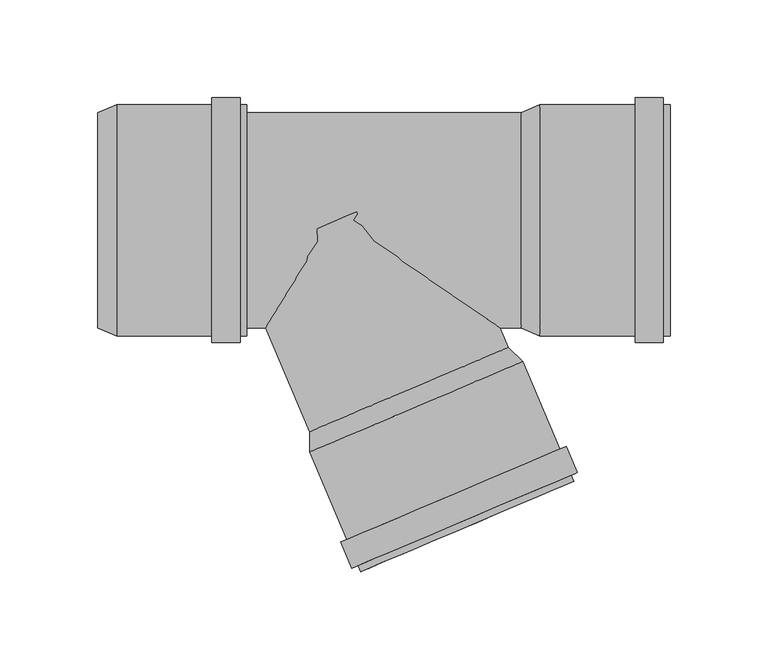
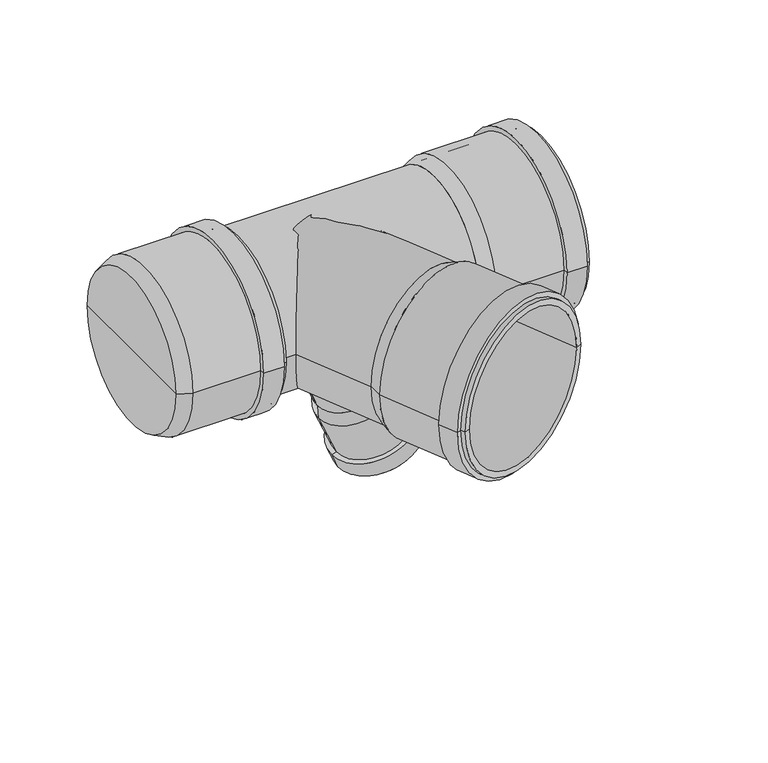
"""IFC4 building model written with IfcOpenShell, lengths in millimetres: pipe fitting geometry, pf_HTEPKp : pf_HTEPKp."""

from ifc_helpers import new_model, si_unit, point, frame, origin, origin_2d, place, context, project, spatial, polyline, circle_curve, trimmed, segment, composite_curve, outline, extrude, source, transform, mapped, element, save
from ifc_brep_helpers import plane_surface, cylinder_surface, revolved_surface, advanced_brep


def pipe_fitting_05d55db8(model_context):
    return source(origin(), model_context, "Body", "SolidModel", [
        advanced_brep(
        [(10.4142299, 0.0, -88.5170049), (56.4394726, 0.0, -68.9804484), (62.6142523, 0.0, -75.5934732), (10.8818795, 0.0, -97.5525626), (33.4268513, 0.0, -78.7487267), (29.4416081, 0.0, -141.2765432), (81.1739809, 0.0, -119.3174537), (78.3204158, 0.0, -120.5287202), (32.2951731, 0.0, -140.0652767), (28.1131223, 0.0, -138.1468267), (79.845495, 0.0, -116.1877372), (24.9834058, 0.0, -139.4753125), (82.9752115, 0.0, -114.8592514), (20.5290709, 0.0, -128.9815572), (78.5208767, 0.0, -104.3654961), (23.6587874, 0.0, -127.6530713), (75.3911602, 0.0, -105.6939819), (13.7354445, 0.0, -96.3412961), (59.7606872, 0.0, -76.8047397), (36.7480659, 0.0, -86.5730179)],
        [
            (0, 1, circle_curve(frame((33.4268513, 0.0, -78.7487267), z_axis=(0.39073112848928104, 0.0, -0.9205048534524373), x_axis=(0.9205048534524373, 0.0, 0.39073112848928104)), 25.0)),
            (1, 2),
            (2, 3, circle_curve(frame((36.7480659, 0.0, -86.5730179), z_axis=(-0.39073112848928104, 0.0, 0.9205048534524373), x_axis=(0.9205048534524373, 0.0, 0.39073112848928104)), 28.1)),
            (3, 0),
            (1, 0, circle_curve(frame((33.4268513, 0.0, -78.7487267), z_axis=(0.39073112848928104, 0.0, -0.9205048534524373), x_axis=(0.9205048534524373, 0.0, 0.39073112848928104)), 25.0)),
            (3, 2, circle_curve(frame((36.7480659, 0.0, -86.5730179), z_axis=(-0.39073112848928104, 0.0, 0.9205048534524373), x_axis=(0.9205048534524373, 0.0, 0.39073112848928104)), 28.1)),
            (4, 1),
            (0, 4),
            (5, 6, circle_curve(frame((55.3077945, 0.0, -130.2969985), z_axis=(0.39073112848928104, 0.0, -0.9205048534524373), x_axis=(0.9205048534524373, 0.0, 0.39073112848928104)), 28.1)),
            (6, 7),
            (7, 8, circle_curve(frame((55.3077945, 0.0, -130.2969985), z_axis=(-0.39073112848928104, 0.0, 0.9205048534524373), x_axis=(0.9205048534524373, 0.0, 0.39073112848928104)), 25.0)),
            (8, 5),
            (6, 5, circle_curve(frame((55.3077945, 0.0, -130.2969985), z_axis=(0.39073112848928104, 0.0, -0.9205048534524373), x_axis=(0.9205048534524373, 0.0, 0.39073112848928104)), 28.1)),
            (8, 7, circle_curve(frame((55.3077945, 0.0, -130.2969985), z_axis=(-0.39073112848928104, 0.0, 0.9205048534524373), x_axis=(0.9205048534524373, 0.0, 0.39073112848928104)), 25.0)),
            (9, 10, circle_curve(frame((53.9793086, 0.0, -127.167282), z_axis=(0.39073112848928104, 0.0, -0.9205048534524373), x_axis=(0.9205048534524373, 0.0, 0.39073112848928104)), 28.1)),
            (10, 6),
            (5, 9),
            (10, 9, circle_curve(frame((53.9793086, 0.0, -127.167282), z_axis=(0.39073112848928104, 0.0, -0.9205048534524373), x_axis=(0.9205048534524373, 0.0, 0.39073112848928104)), 28.1)),
            (11, 12, circle_curve(frame((53.9793086, 0.0, -127.167282), z_axis=(0.39073112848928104, 0.0, -0.9205048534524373), x_axis=(0.9205048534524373, 0.0, 0.39073112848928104)), 31.5)),
            (12, 10),
            (9, 11),
            (12, 11, circle_curve(frame((53.9793086, 0.0, -127.167282), z_axis=(0.39073112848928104, 0.0, -0.9205048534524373), x_axis=(0.9205048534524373, 0.0, 0.39073112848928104)), 31.5)),
            (13, 14, circle_curve(frame((49.5249738, 0.0, -116.6735266), z_axis=(0.39073112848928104, 0.0, -0.9205048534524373), x_axis=(0.9205048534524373, 0.0, 0.39073112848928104)), 31.5)),
            (14, 12),
            (11, 13),
            (14, 13, circle_curve(frame((49.5249738, 0.0, -116.6735266), z_axis=(0.39073112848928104, 0.0, -0.9205048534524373), x_axis=(0.9205048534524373, 0.0, 0.39073112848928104)), 31.5)),
            (15, 16, circle_curve(frame((49.5249738, 0.0, -116.6735266), z_axis=(0.39073112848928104, 0.0, -0.9205048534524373), x_axis=(0.9205048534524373, 0.0, 0.39073112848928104)), 28.1)),
            (16, 14),
            (13, 15),
            (16, 15, circle_curve(frame((49.5249738, 0.0, -116.6735266), z_axis=(0.39073112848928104, 0.0, -0.9205048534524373), x_axis=(0.9205048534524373, 0.0, 0.39073112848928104)), 28.1)),
            (2, 16),
            (15, 3),
            (17, 18, circle_curve(frame((36.7480659, 0.0, -86.5730179), z_axis=(0.39073112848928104, 0.0, -0.9205048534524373), x_axis=(0.9205048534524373, 0.0, 0.39073112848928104)), 25.0)),
            (18, 19),
            (19, 17),
            (18, 17, circle_curve(frame((36.7480659, 0.0, -86.5730179), z_axis=(0.39073112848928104, 0.0, -0.9205048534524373), x_axis=(0.9205048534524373, 0.0, 0.39073112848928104)), 25.0)),
            (7, 18),
            (17, 8),
        ],
        [
            revolved_surface(polyline([(62.6142523, 0.0, -75.5934732), (56.4394726, 0.0, -68.9804484)]), (33.4268513, 0.0, -78.7487267), (-0.39073112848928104, 0.0, 0.9205048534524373)),
            plane_surface(frame((33.4268513, 0.0, -78.7487267), z_axis=(-0.39073112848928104, 0.0, 0.9205048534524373), x_axis=(0.9205048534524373, 0.0, 0.39073112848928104))),
            plane_surface(frame((55.3077945, 0.0, -130.2969985), z_axis=(0.39073112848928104, 0.0, -0.9205048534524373), x_axis=(0.9205048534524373, 0.0, 0.39073112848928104))),
            cylinder_surface(frame((33.4268513, 0.0, -78.7487267), z_axis=(-0.39073112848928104, 0.0, 0.9205048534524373), x_axis=(0.9205048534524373, 0.0, 0.39073112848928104)), 28.1),
            plane_surface(frame((53.9793086, 0.0, -127.167282), z_axis=(0.39073112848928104, 0.0, -0.9205048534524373), x_axis=(0.9205048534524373, 0.0, 0.39073112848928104))),
            cylinder_surface(frame((33.4268513, 0.0, -78.7487267), z_axis=(-0.39073112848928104, 0.0, 0.9205048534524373), x_axis=(0.9205048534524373, 0.0, 0.39073112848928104)), 31.5),
            plane_surface(frame((49.5249738, 0.0, -116.6735266), z_axis=(-0.39073112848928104, 0.0, 0.9205048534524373), x_axis=(0.9205048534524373, 0.0, 0.39073112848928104))),
            plane_surface(frame((36.7480659, 0.0, -86.5730179), z_axis=(0.39073112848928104, 0.0, -0.9205048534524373), x_axis=(0.9205048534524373, 0.0, 0.39073112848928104))),
            revolved_surface(polyline([(59.76068719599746, 0.0, -76.80473966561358), (78.32041583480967, 0.0, -120.52872028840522)]), (33.4268513, 0.0, -78.7487267), (-0.39073112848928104, 0.0, 0.9205048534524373)),
        ],
        [
            (0, [[1, 2, 3, 4]]),
            (0, [[5, -4, 6, -2]]),
            (1, [[7, -1, 8]]),
            (1, [[-8, -5, -7]]),
            (2, [[9, 10, 11, 12]]),
            (2, [[13, -12, 14, -10]]),
            (3, [[15, 16, -9, 17]]),
            (3, [[18, -17, -13, -16]]),
            (4, [[19, 20, -15, 21]]),
            (4, [[22, -21, -18, -20]]),
            (5, [[23, 24, -19, 25]]),
            (5, [[26, -25, -22, -24]]),
            (6, [[27, 28, -23, 29]]),
            (6, [[30, -29, -26, -28]]),
            (3, [[-3, 31, -27, 32]]),
            (3, [[-6, -32, -30, -31]]),
            (7, [[33, 34, 35]]),
            (7, [[36, -35, -34]]),
            (8, [[-11, 37, -33, 38]]),
            (8, [[-14, -38, -36, -37]]),
        ],
    ),
        advanced_brep(
        [(-13.8599677, -108.1097188, 0.0), (87.3955661, -65.1292946, 0.0), (94.8815818, -72.2720931, 0.0), (-13.9220919, -118.4565125, 0.0), (36.7677992, -86.6195067, 0.0), (12.0615281, -179.6700853, 0.0), (120.8652018, -133.4856659, 0.0), (117.0911319, -135.0876635, 0.0), (15.835598, -178.0680876, 0.0), (10.7330423, -176.5403688, 0.0), (119.536716, -130.3559494, 0.0), (7.6033258, -177.8688546, 0.0), (122.6664325, -129.0274635, 0.0), (1.9377244, -164.5215342, 0.0), (117.0008311, -115.6801432, 0.0), (5.0674409, -163.1930484, 0.0), (113.8711146, -117.008629, 0.0), (-10.148022, -116.8545149, 0.0), (91.1075119, -73.8740908, 0.0), (40.4797449, -95.3643028, 0.0)],
        [
            (0, 1, circle_curve(frame((36.7677992, -86.6195067, 0.0), z_axis=(0.3907311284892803, -0.9205048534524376, 0.0), x_axis=(0.9205048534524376, 0.3907311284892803, 0.0)), 55.0)),
            (1, 2),
            (2, 3, circle_curve(frame((40.4797449, -95.3643028, 0.0), z_axis=(-0.3907311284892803, 0.9205048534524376, 0.0), x_axis=(0.9205048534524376, 0.3907311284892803, 0.0)), 59.1)),
            (3, 0),
            (1, 0, circle_curve(frame((36.7677992, -86.6195067, 0.0), z_axis=(0.3907311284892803, -0.9205048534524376, 0.0), x_axis=(0.9205048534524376, 0.3907311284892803, 0.0)), 55.0)),
            (3, 2, circle_curve(frame((40.4797449, -95.3643028, 0.0), z_axis=(-0.3907311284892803, 0.9205048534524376, 0.0), x_axis=(0.9205048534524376, 0.3907311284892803, 0.0)), 59.1)),
            (4, 1),
            (0, 4),
            (5, 6, circle_curve(frame((66.463365, -156.5778756, 0.0), z_axis=(0.3907311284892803, -0.9205048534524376, 0.0), x_axis=(0.9205048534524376, 0.3907311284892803, 0.0)), 59.1)),
            (6, 7),
            (7, 8, circle_curve(frame((66.463365, -156.5778756, 0.0), z_axis=(-0.3907311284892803, 0.9205048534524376, 0.0), x_axis=(0.9205048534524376, 0.3907311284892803, 0.0)), 55.0)),
            (8, 5),
            (6, 5, circle_curve(frame((66.463365, -156.5778756, 0.0), z_axis=(0.3907311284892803, -0.9205048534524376, 0.0), x_axis=(0.9205048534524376, 0.3907311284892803, 0.0)), 59.1)),
            (8, 7, circle_curve(frame((66.463365, -156.5778756, 0.0), z_axis=(-0.3907311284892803, 0.9205048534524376, 0.0), x_axis=(0.9205048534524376, 0.3907311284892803, 0.0)), 55.0)),
            (9, 10, circle_curve(frame((65.1348791, -153.4481591, 0.0), z_axis=(0.3907311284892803, -0.9205048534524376, 0.0), x_axis=(0.9205048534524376, 0.3907311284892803, 0.0)), 59.1)),
            (10, 6),
            (5, 9),
            (10, 9, circle_curve(frame((65.1348791, -153.4481591, 0.0), z_axis=(0.3907311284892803, -0.9205048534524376, 0.0), x_axis=(0.9205048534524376, 0.3907311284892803, 0.0)), 59.1)),
            (11, 12, circle_curve(frame((65.1348791, -153.4481591, 0.0), z_axis=(0.3907311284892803, -0.9205048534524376, 0.0), x_axis=(0.9205048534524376, 0.3907311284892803, 0.0)), 62.5)),
            (12, 10),
            (9, 11),
            (12, 11, circle_curve(frame((65.1348791, -153.4481591, 0.0), z_axis=(0.3907311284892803, -0.9205048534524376, 0.0), x_axis=(0.9205048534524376, 0.3907311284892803, 0.0)), 62.5)),
            (13, 14, circle_curve(frame((59.4692778, -140.1008387, 0.0), z_axis=(0.3907311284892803, -0.9205048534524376, 0.0), x_axis=(0.9205048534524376, 0.3907311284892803, 0.0)), 62.5)),
            (14, 12),
            (11, 13),
            (14, 13, circle_curve(frame((59.4692778, -140.1008387, 0.0), z_axis=(0.3907311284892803, -0.9205048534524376, 0.0), x_axis=(0.9205048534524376, 0.3907311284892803, 0.0)), 62.5)),
            (15, 16, circle_curve(frame((59.4692778, -140.1008387, 0.0), z_axis=(0.3907311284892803, -0.9205048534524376, 0.0), x_axis=(0.9205048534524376, 0.3907311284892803, 0.0)), 59.1)),
            (16, 14),
            (13, 15),
            (16, 15, circle_curve(frame((59.4692778, -140.1008387, 0.0), z_axis=(0.3907311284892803, -0.9205048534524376, 0.0), x_axis=(0.9205048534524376, 0.3907311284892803, 0.0)), 59.1)),
            (2, 16),
            (15, 3),
            (17, 18, circle_curve(frame((40.4797449, -95.3643028, 0.0), z_axis=(0.3907311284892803, -0.9205048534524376, 0.0), x_axis=(0.9205048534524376, 0.3907311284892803, 0.0)), 55.0)),
            (18, 19),
            (19, 17),
            (18, 17, circle_curve(frame((40.4797449, -95.3643028, 0.0), z_axis=(0.3907311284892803, -0.9205048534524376, 0.0), x_axis=(0.9205048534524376, 0.3907311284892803, 0.0)), 55.0)),
            (7, 18),
            (17, 8),
        ],
        [
            revolved_surface(polyline([(94.8815818, -72.2720931, 0.0), (87.3955661, -65.1292946, 0.0)]), (36.7677992, -86.6195067, 0.0), (-0.3907311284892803, 0.9205048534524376, 0.0)),
            plane_surface(frame((36.7677992, -86.6195067, 0.0), z_axis=(-0.3907311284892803, 0.9205048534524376, 0.0), x_axis=(0.9205048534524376, 0.3907311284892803, 0.0))),
            plane_surface(frame((66.463365, -156.5778756, 0.0), z_axis=(0.3907311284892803, -0.9205048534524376, 0.0), x_axis=(0.9205048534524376, 0.3907311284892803, 0.0))),
            cylinder_surface(frame((36.7677992, -86.6195067, 0.0), z_axis=(-0.3907311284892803, 0.9205048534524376, 0.0), x_axis=(0.9205048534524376, 0.3907311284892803, 0.0)), 59.1),
            plane_surface(frame((65.1348791, -153.4481591, 0.0), z_axis=(0.3907311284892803, -0.9205048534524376, 0.0), x_axis=(0.9205048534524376, 0.3907311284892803, 0.0))),
            cylinder_surface(frame((36.7677992, -86.6195067, 0.0), z_axis=(-0.3907311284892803, 0.9205048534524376, 0.0), x_axis=(0.9205048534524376, 0.3907311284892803, 0.0)), 62.5),
            plane_surface(frame((59.4692778, -140.1008387, 0.0), z_axis=(-0.3907311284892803, 0.9205048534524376, 0.0), x_axis=(0.9205048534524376, 0.3907311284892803, 0.0))),
            plane_surface(frame((40.4797449, -95.3643028, 0.0), z_axis=(0.3907311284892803, -0.9205048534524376, 0.0), x_axis=(0.9205048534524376, 0.3907311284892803, 0.0))),
            revolved_surface(polyline([(91.1075118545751, -73.87409072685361, 0.0), (117.09113192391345, -135.08766353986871, 0.0)]), (36.7677992, -86.6195067, 0.0), (-0.3907311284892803, 0.9205048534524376, 0.0)),
        ],
        [
            (0, [[1, 2, 3, 4]]),
            (0, [[5, -4, 6, -2]]),
            (1, [[7, -1, 8]]),
            (1, [[-8, -5, -7]]),
            (2, [[9, 10, 11, 12]]),
            (2, [[13, -12, 14, -10]]),
            (3, [[15, 16, -9, 17]]),
            (3, [[18, -17, -13, -16]]),
            (4, [[19, 20, -15, 21]]),
            (4, [[22, -21, -18, -20]]),
            (5, [[23, 24, -19, 25]]),
            (5, [[26, -25, -22, -24]]),
            (6, [[27, 28, -23, 29]]),
            (6, [[30, -29, -26, -28]]),
            (3, [[-3, 31, -27, 32]]),
            (3, [[-6, -32, -30, -31]]),
            (7, [[33, 34, 35]]),
            (7, [[36, -35, -34]]),
            (8, [[-11, 37, -33, 38]]),
            (8, [[-14, -38, -36, -37]]),
        ],
    ),
        advanced_brep(
        [(94.1, -55.0, 0.0), (94.1, 55.0, 0.0), (103.6, 59.1, 0.0), (103.6, -59.1, 0.0), (94.1, 0.0, 0.0), (170.1, -59.1, 0.0), (170.1, 59.1, 0.0), (170.1, 55.0, 0.0), (170.1, -55.0, 0.0), (166.7, -59.1, 0.0), (166.7, 59.1, 0.0), (166.7, -62.5, 0.0), (166.7, 62.5, 0.0), (152.2, -62.5, 0.0), (152.2, 62.5, 0.0), (152.2, -59.1, 0.0), (152.2, 59.1, 0.0), (103.6, -55.0, 0.0), (103.6, 55.0, 0.0), (103.6, 0.0, 0.0)],
        [
            (0, 1, circle_curve(frame((94.1, 0.0, 0.0), z_axis=(1.0, 0.0, 0.0), x_axis=(0.0, 1.0, 0.0)), 55.0)),
            (1, 2),
            (2, 3, circle_curve(frame((103.6, 0.0, 0.0), z_axis=(-1.0, 0.0, 0.0), x_axis=(0.0, 1.0, 0.0)), 59.1)),
            (3, 0),
            (1, 0, circle_curve(frame((94.1, 0.0, 0.0), z_axis=(1.0, 0.0, 0.0), x_axis=(0.0, 1.0, 0.0)), 55.0)),
            (3, 2, circle_curve(frame((103.6, 0.0, 0.0), z_axis=(-1.0, 0.0, 0.0), x_axis=(0.0, 1.0, 0.0)), 59.1)),
            (4, 1),
            (0, 4),
            (5, 6, circle_curve(frame((170.1, 0.0, 0.0), z_axis=(1.0, 0.0, 0.0), x_axis=(0.0, 1.0, 0.0)), 59.1)),
            (6, 7),
            (7, 8, circle_curve(frame((170.1, 0.0, 0.0), z_axis=(-1.0, 0.0, 0.0), x_axis=(0.0, 1.0, 0.0)), 55.0)),
            (8, 5),
            (6, 5, circle_curve(frame((170.1, 0.0, 0.0), z_axis=(1.0, 0.0, 0.0), x_axis=(0.0, 1.0, 0.0)), 59.1)),
            (8, 7, circle_curve(frame((170.1, 0.0, 0.0), z_axis=(-1.0, 0.0, 0.0), x_axis=(0.0, 1.0, 0.0)), 55.0)),
            (9, 10, circle_curve(frame((166.7, 0.0, 0.0), z_axis=(1.0, 0.0, 0.0), x_axis=(0.0, 1.0, 0.0)), 59.1)),
            (10, 6),
            (5, 9),
            (10, 9, circle_curve(frame((166.7, 0.0, 0.0), z_axis=(1.0, 0.0, 0.0), x_axis=(0.0, 1.0, 0.0)), 59.1)),
            (11, 12, circle_curve(frame((166.7, 0.0, 0.0), z_axis=(1.0, 0.0, 0.0), x_axis=(0.0, 1.0, 0.0)), 62.5)),
            (12, 10),
            (9, 11),
            (12, 11, circle_curve(frame((166.7, 0.0, 0.0), z_axis=(1.0, 0.0, 0.0), x_axis=(0.0, 1.0, 0.0)), 62.5)),
            (13, 14, circle_curve(frame((152.2, 0.0, 0.0), z_axis=(1.0, 0.0, 0.0), x_axis=(0.0, 1.0, 0.0)), 62.5)),
            (14, 12),
            (11, 13),
            (14, 13, circle_curve(frame((152.2, 0.0, 0.0), z_axis=(1.0, 0.0, 0.0), x_axis=(0.0, 1.0, 0.0)), 62.5)),
            (15, 16, circle_curve(frame((152.2, 0.0, 0.0), z_axis=(1.0, 0.0, 0.0), x_axis=(0.0, 1.0, 0.0)), 59.1)),
            (16, 14),
            (13, 15),
            (16, 15, circle_curve(frame((152.2, 0.0, 0.0), z_axis=(1.0, 0.0, 0.0), x_axis=(0.0, 1.0, 0.0)), 59.1)),
            (2, 16),
            (15, 3),
            (17, 18, circle_curve(frame((103.6, 0.0, 0.0), z_axis=(1.0, 0.0, 0.0), x_axis=(0.0, 1.0, 0.0)), 55.0)),
            (18, 19),
            (19, 17),
            (18, 17, circle_curve(frame((103.6, 0.0, 0.0), z_axis=(1.0, 0.0, 0.0), x_axis=(0.0, 1.0, 0.0)), 55.0)),
            (7, 18),
            (17, 8),
        ],
        [
            revolved_surface(polyline([(103.6, 59.1, 0.0), (94.1, 55.0, 0.0)]), (94.1, 0.0, 0.0), (-1.0, 0.0, 0.0)),
            plane_surface(frame((94.1, 0.0, 0.0), z_axis=(-1.0, 0.0, 0.0), x_axis=(0.0, 1.0, 0.0))),
            plane_surface(frame((170.1, 0.0, 0.0), z_axis=(1.0, 0.0, 0.0), x_axis=(0.0, 1.0, 0.0))),
            cylinder_surface(frame((94.1, 0.0, 0.0), z_axis=(-1.0, 0.0, 0.0), x_axis=(0.0, 1.0, 0.0)), 59.1),
            plane_surface(frame((166.7, 0.0, 0.0), z_axis=(1.0, 0.0, 0.0), x_axis=(0.0, 1.0, 0.0))),
            cylinder_surface(frame((94.1, 0.0, 0.0), z_axis=(-1.0, 0.0, 0.0), x_axis=(0.0, 1.0, 0.0)), 62.5),
            plane_surface(frame((152.2, 0.0, 0.0), z_axis=(-1.0, 0.0, 0.0), x_axis=(0.0, 1.0, 0.0))),
            plane_surface(frame((103.6, 0.0, 0.0), z_axis=(1.0, 0.0, 0.0), x_axis=(0.0, 1.0, 0.0))),
            revolved_surface(polyline([(103.6, 55.0, 0.0), (170.1, 55.0, 0.0)]), (94.1, 0.0, 0.0), (-1.0, 0.0, 0.0)),
        ],
        [
            (0, [[1, 2, 3, 4]]),
            (0, [[5, -4, 6, -2]]),
            (1, [[7, -1, 8]]),
            (1, [[-8, -5, -7]]),
            (2, [[9, 10, 11, 12]]),
            (2, [[13, -12, 14, -10]]),
            (3, [[15, 16, -9, 17]]),
            (3, [[18, -17, -13, -16]]),
            (4, [[19, 20, -15, 21]]),
            (4, [[22, -21, -18, -20]]),
            (5, [[23, 24, -19, 25]]),
            (5, [[26, -25, -22, -24]]),
            (6, [[27, 28, -23, 29]]),
            (6, [[30, -29, -26, -28]]),
            (3, [[-3, 31, -27, 32]]),
            (3, [[-6, -32, -30, -31]]),
            (7, [[33, 34, 35]]),
            (7, [[36, -35, -34]]),
            (8, [[-11, 37, -33, 38]]),
            (8, [[-14, -38, -36, -37]]),
        ],
    ),
        advanced_brep(
        [(-122.1, -55.0, 0.0), (-122.1, 55.0, 0.0), (-112.6, 59.1, 0.0), (-112.6, -59.1, 0.0), (-122.1, 0.0, 0.0), (-46.1, -59.1, 0.0), (-46.1, 59.1, 0.0), (-46.1, 55.0, 0.0), (-46.1, -55.0, 0.0), (-49.5, -59.1, 0.0), (-49.5, 59.1, 0.0), (-49.5, -62.5, 0.0), (-49.5, 62.5, 0.0), (-64.0, -62.5, 0.0), (-64.0, 62.5, 0.0), (-64.0, -59.1, 0.0), (-64.0, 59.1, 0.0), (-112.6, -55.0, 0.0), (-112.6, 55.0, 0.0), (-112.6, 0.0, 0.0)],
        [
            (0, 1, circle_curve(frame((-122.1, 0.0, 0.0), z_axis=(1.0, 0.0, 0.0), x_axis=(0.0, 1.0, 0.0)), 55.0)),
            (1, 2),
            (2, 3, circle_curve(frame((-112.6, 0.0, 0.0), z_axis=(-1.0, 0.0, 0.0), x_axis=(0.0, 1.0, 0.0)), 59.1)),
            (3, 0),
            (1, 0, circle_curve(frame((-122.1, 0.0, 0.0), z_axis=(1.0, 0.0, 0.0), x_axis=(0.0, 1.0, 0.0)), 55.0)),
            (3, 2, circle_curve(frame((-112.6, 0.0, 0.0), z_axis=(-1.0, 0.0, 0.0), x_axis=(0.0, 1.0, 0.0)), 59.1)),
            (4, 1),
            (0, 4),
            (5, 6, circle_curve(frame((-46.1, 0.0, 0.0), z_axis=(1.0, 0.0, 0.0), x_axis=(0.0, 1.0, 0.0)), 59.1)),
            (6, 7),
            (7, 8, circle_curve(frame((-46.1, 0.0, 0.0), z_axis=(-1.0, 0.0, 0.0), x_axis=(0.0, 1.0, 0.0)), 55.0)),
            (8, 5),
            (6, 5, circle_curve(frame((-46.1, 0.0, 0.0), z_axis=(1.0, 0.0, 0.0), x_axis=(0.0, 1.0, 0.0)), 59.1)),
            (8, 7, circle_curve(frame((-46.1, 0.0, 0.0), z_axis=(-1.0, 0.0, 0.0), x_axis=(0.0, 1.0, 0.0)), 55.0)),
            (9, 10, circle_curve(frame((-49.5, 0.0, 0.0), z_axis=(1.0, 0.0, 0.0), x_axis=(0.0, 1.0, 0.0)), 59.1)),
            (10, 6),
            (5, 9),
            (10, 9, circle_curve(frame((-49.5, 0.0, 0.0), z_axis=(1.0, 0.0, 0.0), x_axis=(0.0, 1.0, 0.0)), 59.1)),
            (11, 12, circle_curve(frame((-49.5, 0.0, 0.0), z_axis=(1.0, 0.0, 0.0), x_axis=(0.0, 1.0, 0.0)), 62.5)),
            (12, 10),
            (9, 11),
            (12, 11, circle_curve(frame((-49.5, 0.0, 0.0), z_axis=(1.0, 0.0, 0.0), x_axis=(0.0, 1.0, 0.0)), 62.5)),
            (13, 14, circle_curve(frame((-64.0, 0.0, 0.0), z_axis=(1.0, 0.0, 0.0), x_axis=(0.0, 1.0, 0.0)), 62.5)),
            (14, 12),
            (11, 13),
            (14, 13, circle_curve(frame((-64.0, 0.0, 0.0), z_axis=(1.0, 0.0, 0.0), x_axis=(0.0, 1.0, 0.0)), 62.5)),
            (15, 16, circle_curve(frame((-64.0, 0.0, 0.0), z_axis=(1.0, 0.0, 0.0), x_axis=(0.0, 1.0, 0.0)), 59.1)),
            (16, 14),
            (13, 15),
            (16, 15, circle_curve(frame((-64.0, 0.0, 0.0), z_axis=(1.0, 0.0, 0.0), x_axis=(0.0, 1.0, 0.0)), 59.1)),
            (2, 16),
            (15, 3),
            (17, 18, circle_curve(frame((-112.6, 0.0, 0.0), z_axis=(1.0, 0.0, 0.0), x_axis=(0.0, 1.0, 0.0)), 55.0)),
            (18, 19),
            (19, 17),
            (18, 17, circle_curve(frame((-112.6, 0.0, 0.0), z_axis=(1.0, 0.0, 0.0), x_axis=(0.0, 1.0, 0.0)), 55.0)),
            (7, 18),
            (17, 8),
        ],
        [
            revolved_surface(polyline([(-112.6, 59.1, 0.0), (-122.1, 55.0, 0.0)]), (-122.1, 0.0, 0.0), (-1.0, 0.0, 0.0)),
            plane_surface(frame((-122.1, 0.0, 0.0), z_axis=(-1.0, 0.0, 0.0), x_axis=(0.0, 1.0, 0.0))),
            plane_surface(frame((-46.1, 0.0, 0.0), z_axis=(1.0, 0.0, 0.0), x_axis=(0.0, 1.0, 0.0))),
            cylinder_surface(frame((-122.1, 0.0, 0.0), z_axis=(-1.0, 0.0, 0.0), x_axis=(0.0, 1.0, 0.0)), 59.1),
            plane_surface(frame((-49.5, 0.0, 0.0), z_axis=(1.0, 0.0, 0.0), x_axis=(0.0, 1.0, 0.0))),
            cylinder_surface(frame((-122.1, 0.0, 0.0), z_axis=(-1.0, 0.0, 0.0), x_axis=(0.0, 1.0, 0.0)), 62.5),
            plane_surface(frame((-64.0, 0.0, 0.0), z_axis=(-1.0, 0.0, 0.0), x_axis=(0.0, 1.0, 0.0))),
            plane_surface(frame((-112.6, 0.0, 0.0), z_axis=(1.0, 0.0, 0.0), x_axis=(0.0, 1.0, 0.0))),
            revolved_surface(polyline([(-112.6, 55.0, 0.0), (-46.099999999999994, 55.0, 0.0)]), (-122.1, 0.0, 0.0), (-1.0, 0.0, 0.0)),
        ],
        [
            (0, [[1, 2, 3, 4]]),
            (0, [[5, -4, 6, -2]]),
            (1, [[7, -1, 8]]),
            (1, [[-8, -5, -7]]),
            (2, [[9, 10, 11, 12]]),
            (2, [[13, -12, 14, -10]]),
            (3, [[15, 16, -9, 17]]),
            (3, [[18, -17, -13, -16]]),
            (4, [[19, 20, -15, 21]]),
            (4, [[22, -21, -18, -20]]),
            (5, [[23, 24, -19, 25]]),
            (5, [[26, -25, -22, -24]]),
            (6, [[27, 28, -23, 29]]),
            (6, [[30, -29, -26, -28]]),
            (3, [[-3, 31, -27, 32]]),
            (3, [[-6, -32, -30, -31]]),
            (7, [[33, 34, 35]]),
            (7, [[36, -35, -34]]),
            (8, [[-11, 37, -33, 38]]),
            (8, [[-14, -38, -36, -37]]),
        ],
    ),
        extrude(outline(composite_curve([segment(trimmed(circle_curve(origin_2d(), 25.0), [point((0.0, -25.0))], [point((0.0, 25.0))], False, "CARTESIAN"), True, "CONTINUOUS"), segment(trimmed(circle_curve(origin_2d(), 25.0), [point((0.0, 25.0))], [point((0.0, -25.0))], False, "CARTESIAN"), True, "CONTINUOUS")], self_intersect=False)), frame((36.7677992, 0.0, -86.6195067), z_axis=(-0.3907311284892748, 0.0, 0.9205048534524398), x_axis=(0.0, -1.0, 0.0)), (0.0, 0.0, 1.0), 94.1),
        extrude(outline(composite_curve([segment(trimmed(circle_curve(origin_2d(), 55.0), [point((0.0, -55.0))], [point((0.0, 55.0))], False, "CARTESIAN"), True, "CONTINUOUS"), segment(trimmed(circle_curve(origin_2d(), 55.0), [point((0.0, 55.0))], [point((0.0, -55.0))], False, "CARTESIAN"), True, "CONTINUOUS")], self_intersect=False)), frame((36.7677992, -86.6195067, 0.0), z_axis=(-0.39073112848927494, 0.9205048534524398, 0.0), x_axis=(0.0, 0.0, 1.0)), (0.0, 0.0, 1.0), 94.1),
        extrude(outline(composite_curve([segment(trimmed(circle_curve(origin_2d(), 55.0), [point((-55.0, 0.0))], [point((55.0, 0.0))], False, "CARTESIAN"), True, "CONTINUOUS"), segment(trimmed(circle_curve(origin_2d(), 55.0), [point((55.0, 0.0))], [point((-55.0, 0.0))], False, "CARTESIAN"), True, "CONTINUOUS")], self_intersect=False)), frame((-46.1, 0.0, 0.0), z_axis=(1.0, 0.0, 0.0), x_axis=(0.0, 1.0, 0.0)), (0.0, 0.0, 1.0), 140.2),
    ])


if __name__ == "__main__":
    model = new_model("IFC4")
    model_context = context("Model", 3, world=origin())
    ifc_project = project(units=[si_unit("LENGTHUNIT", "METRE", prefix="MILLI")], contexts=[model_context])
    site = spatial("IfcSite", under=ifc_project)
    building = spatial("IfcBuilding", under=site)
    placement = place(None, origin())
    pipe_fitting_shape = pipe_fitting_05d55db8(model_context)
    element("IfcPipeFitting", 1, ObjectType="pf_HTEPKp : pf_HTEPKp", at=placement, inside=building, context=model_context, shape_type="MappedRepresentation", body=[
        mapped(pipe_fitting_shape, transform((0.0, 0.0, 0.0), x_axis=(1.0, 0.0, 0.0), y_axis=(0.0, 1.0, 0.0), z_axis=(0.0, 0.0, 1.0))),
    ])
    save(model, "model.ifc")
